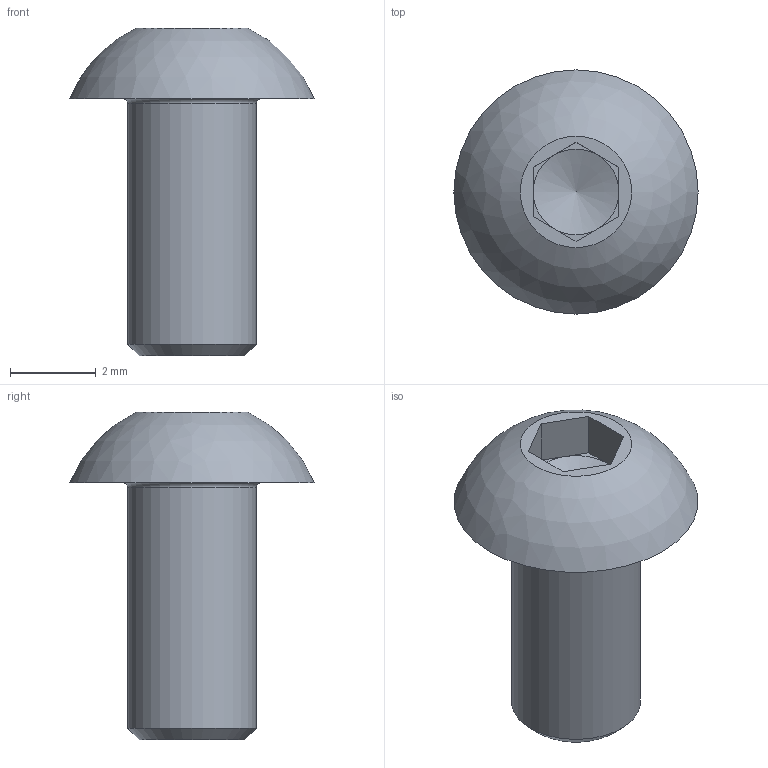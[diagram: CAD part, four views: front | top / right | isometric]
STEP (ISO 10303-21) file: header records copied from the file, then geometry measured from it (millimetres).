
FILE_DESCRIPTION(/* description */ ('STEP AP242 Edition 2','CAx-IF Rec.Pracs.---Representation and Presentation of Product Manufacturing Information (PMI)---4.0---2014-10-13','CAx-IF Rec.Pracs.---3D Tessellated Geometry---0.4---2014-09-14','2;1','CAx-IF Rec.Pracs.---User Defined Attributes---1.5---2016-08-15'),/* implementation_level */ '2;1');
FILE_NAME(/* name */ 'v2_assembly - Socket button head screw M3x0.5 x 6 (1)',/* time_stamp */ '2026-05-19T16:26:07Z',/* author */ (''),/* organization */ (''),/* preprocessor_version */ 'ST-DEVELOPER v20',/* originating_system */ 'ONSHAPE BY PTC INC, 1.215',/* authorisation */ ' ');
FILE_SCHEMA (('AP242_MANAGED_MODEL_BASED_3D_ENGINEERING_MIM_LF { 1 0 10303 442 3 1 4 }'));
Length unit declared in the file: metre
Products named in the file (1): Socket button head screw M3x0.5 x 6
Bounding box: 5.7 x 5.7 x 7.65 mm (x, y, z)
Volume: 65.9 mm3; surface area: 124.6 mm2
Topology: 1 solids, 1 shells, 20 faces, 43 edges, 26 vertices
Faces by surface type: plane 15, cone 2, torus 1, cylinder 1, sphere 1
Full cylindrical faces by diameter (mm): 3 x1
Entity records: 518 total; most frequent: DIRECTION 90, CARTESIAN_POINT 82, ORIENTED_EDGE 72, EDGE_CURVE 36, AXIS2_PLACEMENT_3D 33, FACE_BOUND 27, EDGE_LOOP 26, VERTEX_POINT 25
